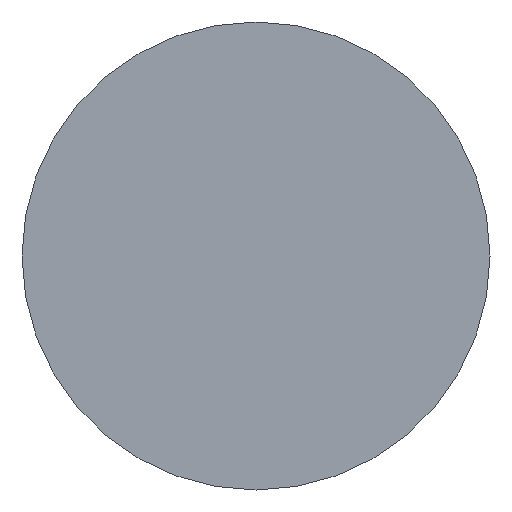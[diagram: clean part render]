
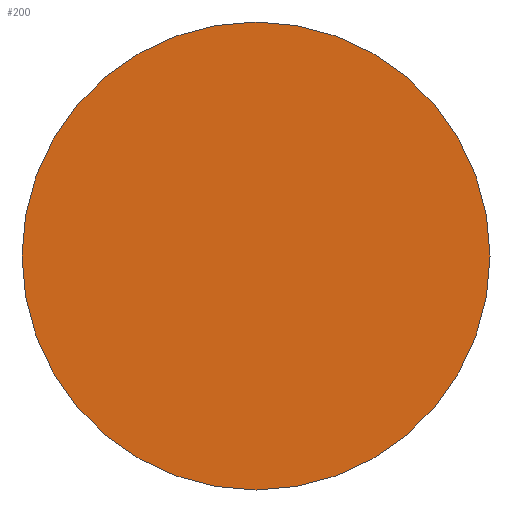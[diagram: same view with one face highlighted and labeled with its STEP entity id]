
A CAD part, front view. The second image highlights one B-rep face of the part: STEP entity #200.
In plain terms, the highlighted planar face has unit normal (0, -1, 0).
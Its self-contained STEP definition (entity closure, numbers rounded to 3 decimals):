
#5=CARTESIAN_POINT('',(0.,0.,0.));
#6=DIRECTION('',(0.,-1.,0.));
#7=DIRECTION('',(1.,0.,0.));
#8=AXIS2_PLACEMENT_3D('',#5,#6,#7);
#14=CARTESIAN_POINT('',(0.,0.,0.));
#15=DIRECTION('',(0.,1.,0.));
#16=DIRECTION('',(1.,0.,0.));
#17=AXIS2_PLACEMENT_3D('',#14,#15,#16);
#151=CARTESIAN_POINT('',(1.,0.,0.));
#153=VERTEX_POINT('',#151);
#171=CARTESIAN_POINT('',(-1.,0.,0.));
#173=VERTEX_POINT('',#171);
#189=CARTESIAN_POINT('',(0.,0.,0.));
#190=DIRECTION('',(0.,1.,0.));
#191=DIRECTION('',(1.,0.,0.));
#192=AXIS2_PLACEMENT_3D('',#189,#190,#191);
#193=PLANE('',#192);
#195=ORIENTED_EDGE('',*,*,#194,.F.);
#197=ORIENTED_EDGE('',*,*,#196,.T.);
#198=EDGE_LOOP('',(#195,#197));
#199=FACE_OUTER_BOUND('',#198,.F.);
#200=ADVANCED_FACE('',(#199),#193,.F.);
#9=CIRCLE('',#8,1.);
#18=CIRCLE('',#17,1.);
#194=EDGE_CURVE('',#153,#173,#9,.T.);
#196=EDGE_CURVE('',#153,#173,#18,.T.);
